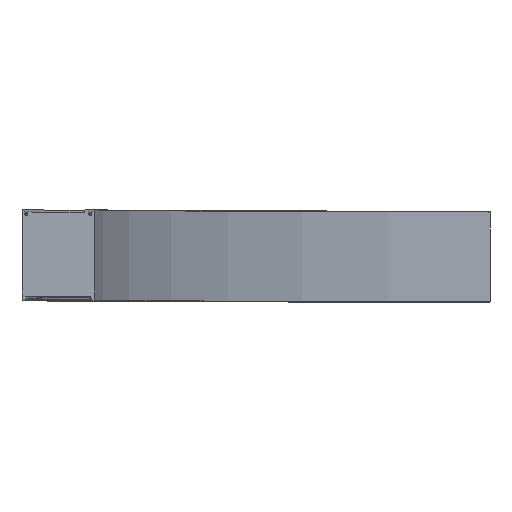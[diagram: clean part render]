
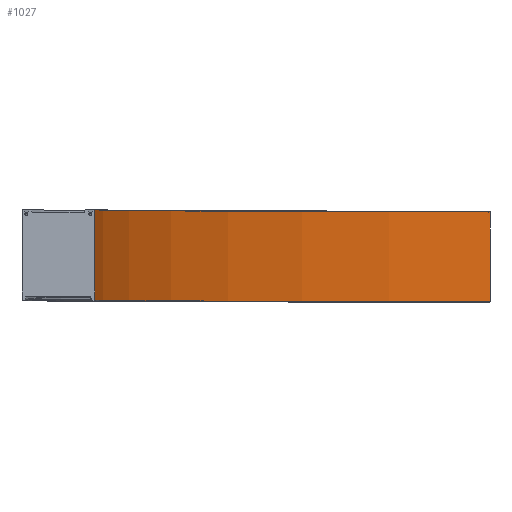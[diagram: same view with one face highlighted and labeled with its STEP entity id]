
A CAD part, top view. The second image highlights one B-rep face of the part: STEP entity #1027.
In plain terms, the highlighted cylindrical face has radius 1411.9 mm (diameter 2823.8 mm), a partial arc.
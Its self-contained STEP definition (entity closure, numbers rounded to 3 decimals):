
#78 = ORIENTED_EDGE ( 'NONE', *, *, #175, .T. ) ;
#159 = VERTEX_POINT ( 'NONE', #953 ) ;
#175 = EDGE_CURVE ( 'NONE', #804, #159, #920, .T. ) ;
#191 = FACE_OUTER_BOUND ( 'NONE', #922, .T. ) ;
#243 = AXIS2_PLACEMENT_3D ( 'NONE', #374, #382, #272 ) ;
#272 = DIRECTION ( 'NONE',  ( 0., 0., -1. ) ) ;
#275 = EDGE_CURVE ( 'NONE', #1084, #159, #1408, .T. ) ;
#367 = CARTESIAN_POINT ( 'NONE',  ( 1450., 0.5, 0. ) ) ;
#374 = CARTESIAN_POINT ( 'NONE',  ( 1450., 0., 0. ) ) ;
#376 = DIRECTION ( 'NONE',  ( 0., -1., 0. ) ) ;
#382 = DIRECTION ( 'NONE',  ( 0., -1., 0. ) ) ;
#394 = AXIS2_PLACEMENT_3D ( 'NONE', #367, #376, #486 ) ;
#427 = VERTEX_POINT ( 'NONE', #1318 ) ;
#448 = ORIENTED_EDGE ( 'NONE', *, *, #989, .F. ) ;
#486 = DIRECTION ( 'NONE',  ( -1., 0., 0. ) ) ;
#547 = VECTOR ( 'NONE', #1140, 1000. ) ;
#568 = VECTOR ( 'NONE', #886, 1000. ) ;
#631 = CARTESIAN_POINT ( 'NONE',  ( 451.636, 0.5, -998.364 ) ) ;
#804 = VERTEX_POINT ( 'NONE', #631 ) ;
#865 = ORIENTED_EDGE ( 'NONE', *, *, #275, .F. ) ;
#886 = DIRECTION ( 'NONE',  ( 0., 1., 0. ) ) ;
#920 = LINE ( 'NONE', #1447, #568 ) ;
#922 = EDGE_LOOP ( 'NONE', ( #865, #448, #1264, #78 ) ) ;
#953 = CARTESIAN_POINT ( 'NONE',  ( 451.636, 94.6, -998.364 ) ) ;
#961 = AXIS2_PLACEMENT_3D ( 'NONE', #1384, #1391, #1437 ) ;
#989 = EDGE_CURVE ( 'NONE', #427, #1084, #1239, .T. ) ;
#1027 = ADVANCED_FACE ( 'NONE', ( #191 ), #1445, .F. ) ;
#1084 = VERTEX_POINT ( 'NONE', #1503 ) ;
#1140 = DIRECTION ( 'NONE',  ( 0., 1., 0. ) ) ;
#1239 = LINE ( 'NONE', #1589, #547 ) ;
#1264 = ORIENTED_EDGE ( 'NONE', *, *, #1309, .T. ) ;
#1309 = EDGE_CURVE ( 'NONE', #427, #804, #1400, .T. ) ;
#1318 = CARTESIAN_POINT ( 'NONE',  ( 38.1, 0.5, 0. ) ) ;
#1384 = CARTESIAN_POINT ( 'NONE',  ( 1450., 94.6, 0. ) ) ;
#1391 = DIRECTION ( 'NONE',  ( 0., -1., 0. ) ) ;
#1400 = CIRCLE ( 'NONE', #394, 1411.9 ) ;
#1408 = CIRCLE ( 'NONE', #961, 1411.9 ) ;
#1437 = DIRECTION ( 'NONE',  ( -1., 0., 0. ) ) ;
#1445 = CYLINDRICAL_SURFACE ( 'NONE', #243, 1411.9 ) ;
#1447 = CARTESIAN_POINT ( 'NONE',  ( 451.636, 94.6, -998.364 ) ) ;
#1503 = CARTESIAN_POINT ( 'NONE',  ( 38.1, 94.6, 0. ) ) ;
#1589 = CARTESIAN_POINT ( 'NONE',  ( 38.1, 94.6, 0. ) ) ;
